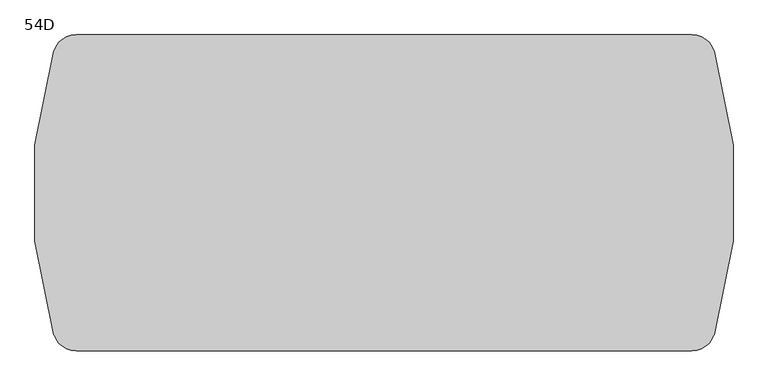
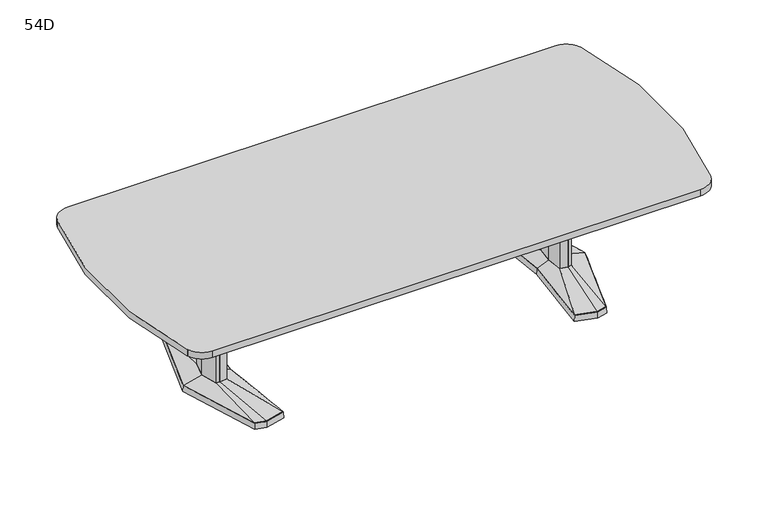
"""IFC4 building model written with IfcOpenShell, lengths in millimetres: furniture geometry, Coalesse_AM_Table_Conference_ETable2_SoftRadiused_10ft_AluminiumBase : 54D."""

from ifc_helpers import new_model, si_unit, frame, origin, place, context, project, spatial, polyline, circle_curve, outline, extrude, faceted_brep, source, transform, mapped, element, save
from ifc_brep_helpers import plane_surface, cylinder_surface, spline_surface, advanced_brep


def furniture_54d_84b97fea(model_context):
    return source(origin(), model_context, "Body", "SolidModel", [
        faceted_brep([(905.8306835, 455.5848221, 38.1), (796.2531277, 426.2263816, 38.1), (837.4163717, 0.0, 38.1), (796.2531277, -426.2263816, 38.1), (905.8306835, -455.5848221, 38.1), (961.9570396, -440.5478297, 38.1), (1099.2684269, 0.0, 38.1), (961.9570396, 440.5478297, 38.1), (905.8306754, 457.2283104, 3.175), (963.2124472, 441.8549756, 3.175), (1100.93125, 0.0, 3.175), (963.2124472, -441.8549756, 3.175), (905.8306754, -457.2283104, 3.175), (794.54375, -427.4118891, 3.175), (835.8214856, 0.0, 3.175), (794.54375, 427.4118891, 3.175), (909.420115, 428.3273875, 3.175), (804.3718228, 402.1057253, 3.175), (812.490518, 377.985069, 3.175), (913.0095466, 401.0699529, 3.175), (963.5691725, 387.524361, 3.175), (962.7631061, 414.0360954, 3.175), (909.420115, -428.3273875, 3.175), (962.7631061, -414.0360954, 3.175), (963.5691725, -387.524361, 3.175), (913.0095466, -401.0699529, 3.175), (812.490518, -377.985069, 3.175), (804.3718228, -402.1057253, 3.175), (1036.0153621, 0.0, 3.175), (1003.7459611, 120.4193755, 3.175), (955.0987222, 133.471665, 3.175), (875.2180526, 119.4176561, 3.175), (864.0868466, 0.0, 3.175), (875.2180526, -119.4176561, 3.175), (955.0987222, -133.471665, 3.175), (1003.7459611, -120.4193755, 3.175), (909.420115, 428.3273875, 0.0), (962.7631061, 414.0360954, 0.0), (963.5691725, 387.524361, 0.0), (913.0095466, 401.0699529, 0.0), (812.490518, 377.985069, 0.0), (804.3718228, 402.1057253, 0.0), (909.420115, -428.3273875, 0.0), (804.3718228, -402.1057253, 0.0), (812.490518, -377.985069, 0.0), (913.0095466, -401.0699529, 0.0), (963.5691725, -387.524361, 0.0), (962.7631061, -414.0360954, 0.0), (1036.0153621, 0.0, 0.0), (1003.7459611, -120.4193755, 0.0), (955.0987222, -133.471665, 0.0), (875.2180526, -119.4176561, 0.0), (864.0868466, 0.0, 0.0), (875.2180526, 119.4176561, 0.0), (955.0987222, 133.471665, 0.0), (1003.7459611, 120.4193755, 0.0)], [[[0, 1, 2, 3, 4, 5, 6, 7]], [[8, 9, 10, 11, 12, 13, 14, 15], [16, 17, 18, 19, 20, 21], [22, 23, 24, 25, 26, 27], [28, 29, 30, 31, 32, 33, 34, 35]], [[7, 9, 8, 0]], [[6, 10, 9, 7]], [[5, 11, 10, 6]], [[4, 12, 11, 5]], [[3, 13, 12, 4]], [[2, 14, 13, 3]], [[1, 15, 14, 2]], [[0, 8, 15, 1]], [[36, 37, 38, 39, 40, 41]], [[42, 43, 44, 45, 46, 47]], [[48, 49, 50, 51, 52, 53, 54, 55]], [[36, 16, 21, 37]], [[37, 21, 20, 38]], [[38, 20, 19, 39]], [[39, 19, 18, 40]], [[40, 18, 17, 41]], [[41, 17, 16, 36]], [[42, 22, 27, 43]], [[43, 27, 26, 44]], [[44, 26, 25, 45]], [[45, 25, 24, 46]], [[46, 24, 23, 47]], [[47, 23, 22, 42]], [[48, 28, 35, 49]], [[49, 35, 34, 50]], [[50, 34, 33, 51]], [[51, 33, 32, 52]], [[52, 32, 31, 53]], [[53, 31, 30, 54]], [[54, 30, 29, 55]], [[55, 29, 28, 48]]]),
        faceted_brep([(996.5710836, 0.0, 698.5), (972.6358546, 89.3188359, 698.5), (955.7824984, 93.8406728, 698.5), (953.3826511, 94.4845635, 698.5), (910.455146, 86.9320037, 698.5), (902.3520056, 0.0, 698.5), (910.455146, -86.9320037, 698.5), (953.3826511, -94.4845635, 698.5), (955.7824984, -93.8406728, 698.5), (972.6358546, -89.3188359, 698.5), (996.5710836, 0.0, 63.5), (972.6358546, -89.3188359, 63.5), (955.7824984, -93.8406728, 63.5), (953.3826511, -94.4845635, 63.5), (910.455146, -86.9320037, 63.5), (902.3520056, 0.0, 63.5), (910.455146, 86.9320037, 63.5), (953.3826511, 94.4845635, 63.5), (955.7824984, 93.8406728, 63.5), (972.6358546, 89.3188359, 63.5)], [[[0, 1, 2, 3, 4, 5, 6, 7, 8, 9]], [[10, 11, 12, 13, 14, 15, 16, 17, 18, 19]], [[9, 11, 10, 0]], [[8, 12, 11, 9]], [[7, 13, 12, 8]], [[6, 14, 13, 7]], [[5, 15, 14, 6]], [[4, 16, 15, 5]], [[3, 17, 16, 4]], [[2, 18, 17, 3]], [[1, 19, 18, 2]], [[0, 10, 19, 1]]]),
        advanced_brep(
        [(953.3826511, 94.4845635, 63.5), (910.455146, 86.9320037, 63.5), (902.3520056, 0.0, 63.5), (910.455146, -86.9320037, 63.5), (953.3826511, -94.4845635, 63.5), (972.6358546, -89.3188359, 63.5), (996.5710836, 0.0, 63.5), (972.6358546, 89.3188359, 63.5), (905.8306835, 455.5848221, 38.1), (961.9570396, 440.5478297, 38.1), (1099.2684269, 0.0, 38.1), (961.9570396, -440.5478297, 38.1), (905.8306835, -455.5848221, 38.1), (796.2531277, -426.2263816, 38.1), (837.4163717, 0.0, 38.1), (796.2531277, 426.2263816, 38.1)],
        [
            (0, 1),
            (1, 2),
            (2, 3),
            (3, 4),
            (4, 5),
            (5, 6),
            (6, 7),
            (7, 0),
            (8, 9),
            (9, 10),
            (10, 11),
            (11, 12),
            (12, 13),
            (13, 14),
            (14, 15),
            (15, 8),
            (8, 0),
            (7, 9),
            (6, 10),
            (5, 11),
            (4, 12),
            (3, 13),
            (2, 14),
            (1, 15),
        ],
        [
            plane_surface(frame((946.4837991, 0.0, 63.5), z_axis=(0.0, 0.0, 1.0), x_axis=(-0.25884244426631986, -0.9659195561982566, 0.0))),
            plane_surface(frame((908.0958125, 0.0, 38.1), z_axis=(0.0, 0.0, -1.0), x_axis=(-0.25884244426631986, -0.9659195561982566, 0.0))),
            spline_surface(1, 1, [[(905.8306835, 455.5848221, 38.1), (961.9570396, 440.5478297, 38.1)], [(953.3826511, 94.4845635, 63.5), (972.6358546, 89.3188359, 63.5)]], [2, 2], [2, 2], [0.0, 1.0], [0.0, 1.0]),
            spline_surface(1, 1, [[(961.9570396, 440.5478297, 38.1), (1099.2684269, 0.0, 38.1)], [(972.6358546, 89.3188359, 63.5), (996.5710836, 0.0, 63.5)]], [2, 2], [2, 2], [0.0, 1.0], [0.0, 1.0]),
            spline_surface(1, 1, [[(1099.2684269, 0.0, 38.1), (961.9570396, -440.5478297, 38.1)], [(996.5710836, 0.0, 63.5), (972.6358546, -89.3188359, 63.5)]], [2, 2], [2, 2], [0.0, 1.0], [0.0, 1.0]),
            spline_surface(1, 1, [[(961.9570396, -440.5478297, 38.1), (905.8306835, -455.5848221, 38.1)], [(972.6358546, -89.3188359, 63.5), (953.3826511, -94.4845635, 63.5)]], [2, 2], [2, 2], [0.0, 1.0], [0.0, 1.0]),
            spline_surface(1, 1, [[(905.8306835, -455.5848221, 38.1), (796.2531277, -426.2263816, 38.1)], [(953.3826511, -94.4845635, 63.5), (910.455146, -86.9320037, 63.5)]], [2, 2], [2, 2], [0.0, 1.0], [0.0, 1.0]),
            spline_surface(1, 1, [[(796.2531277, -426.2263816, 38.1), (837.4163717, 0.0, 38.1)], [(910.455146, -86.9320037, 63.5), (902.3520056, 0.0, 63.5)]], [2, 2], [2, 2], [0.0, 1.0], [0.0, 1.0]),
            spline_surface(1, 1, [[(837.4163717, 0.0, 38.1), (796.2531277, 426.2263816, 38.1)], [(902.3520056, 0.0, 63.5), (910.455146, 86.9320037, 63.5)]], [2, 2], [2, 2], [0.0, 1.0], [0.0, 1.0]),
            spline_surface(1, 1, [[(796.2531277, 426.2263816, 38.1), (905.8306835, 455.5848221, 38.1)], [(910.455146, 86.9320037, 63.5), (953.3826511, 94.4845635, 63.5)]], [2, 2], [2, 2], [0.0, 1.0], [0.0, 1.0]),
        ],
        [
            (0, [[1, 2, 3, 4, 5, 6, 7, 8]]),
            (1, [[9, 10, 11, 12, 13, 14, 15, 16]]),
            (2, [[17, -8, 18, -9]]),
            (3, [[-18, -7, 19, -10]]),
            (4, [[-19, -6, 20, -11]]),
            (5, [[-20, -5, 21, -12]]),
            (6, [[-21, -4, 22, -13]]),
            (7, [[-22, -3, 23, -14]]),
            (8, [[-23, -2, 24, -15]]),
            (9, [[-24, -1, -17, -16]]),
        ],
    ),
        faceted_brep([(-905.8306835, 455.5848221, 38.1), (-961.9570396, 440.5478297, 38.1), (-1099.2684269, 0.0, 38.1), (-961.9570396, -440.5478297, 38.1), (-905.8306835, -455.5848221, 38.1), (-796.2531277, -426.2263816, 38.1), (-837.4163717, 0.0, 38.1), (-796.2531277, 426.2263816, 38.1), (-905.8306754, 457.2283104, 3.175), (-794.54375, 427.4118891, 3.175), (-835.8214856, 0.0, 3.175), (-794.54375, -427.4118891, 3.175), (-905.8306754, -457.2283104, 3.175), (-963.2124472, -441.8549756, 3.175), (-1100.93125, 0.0, 3.175), (-963.2124472, 441.8549756, 3.175), (-909.420115, 428.3273875, 3.175), (-962.7631061, 414.0360954, 3.175), (-963.5691725, 387.524361, 3.175), (-913.0095466, 401.0699529, 3.175), (-812.490518, 377.985069, 3.175), (-804.3718228, 402.1057253, 3.175), (-909.420115, -428.3273875, 3.175), (-804.3718228, -402.1057253, 3.175), (-812.490518, -377.985069, 3.175), (-913.0095466, -401.0699529, 3.175), (-963.5691725, -387.524361, 3.175), (-962.7631061, -414.0360954, 3.175), (-1036.0153621, 0.0, 3.175), (-1003.7459611, -120.4193755, 3.175), (-955.0987222, -133.471665, 3.175), (-875.2180526, -119.4176561, 3.175), (-864.0868466, 0.0, 3.175), (-875.2180526, 119.4176561, 3.175), (-955.0987222, 133.471665, 3.175), (-1003.7459611, 120.4193755, 3.175), (-909.420115, 428.3273875, 0.0), (-804.3718228, 402.1057253, 0.0), (-812.490518, 377.985069, 0.0), (-913.0095466, 401.0699529, 0.0), (-963.5691725, 387.524361, 0.0), (-962.7631061, 414.0360954, 0.0), (-909.420115, -428.3273875, 0.0), (-962.7631061, -414.0360954, 0.0), (-963.5691725, -387.524361, 0.0), (-913.0095466, -401.0699529, 0.0), (-812.490518, -377.985069, 0.0), (-804.3718228, -402.1057253, 0.0), (-1036.0153621, 0.0, 0.0), (-1003.7459611, 120.4193755, 0.0), (-955.0987222, 133.471665, 0.0), (-875.2180526, 119.4176561, 0.0), (-864.0868466, 0.0, 0.0), (-875.2180526, -119.4176561, 0.0), (-955.0987222, -133.471665, 0.0), (-1003.7459611, -120.4193755, 0.0)], [[[0, 1, 2, 3, 4, 5, 6, 7]], [[8, 9, 10, 11, 12, 13, 14, 15], [16, 17, 18, 19, 20, 21], [22, 23, 24, 25, 26, 27], [28, 29, 30, 31, 32, 33, 34, 35]], [[1, 0, 8, 15]], [[2, 1, 15, 14]], [[3, 2, 14, 13]], [[4, 3, 13, 12]], [[5, 4, 12, 11]], [[6, 5, 11, 10]], [[7, 6, 10, 9]], [[0, 7, 9, 8]], [[36, 37, 38, 39, 40, 41]], [[42, 43, 44, 45, 46, 47]], [[48, 49, 50, 51, 52, 53, 54, 55]], [[36, 41, 17, 16]], [[41, 40, 18, 17]], [[40, 39, 19, 18]], [[39, 38, 20, 19]], [[38, 37, 21, 20]], [[37, 36, 16, 21]], [[42, 47, 23, 22]], [[47, 46, 24, 23]], [[46, 45, 25, 24]], [[45, 44, 26, 25]], [[44, 43, 27, 26]], [[43, 42, 22, 27]], [[48, 55, 29, 28]], [[55, 54, 30, 29]], [[54, 53, 31, 30]], [[53, 52, 32, 31]], [[52, 51, 33, 32]], [[51, 50, 34, 33]], [[50, 49, 35, 34]], [[49, 48, 28, 35]]]),
        faceted_brep([(-996.5710836, 0.0, 698.5), (-972.6358546, -89.3188359, 698.5), (-955.7824984, -93.8406728, 698.5), (-953.3826511, -94.4845635, 698.5), (-910.455146, -86.9320037, 698.5), (-902.3520056, 0.0, 698.5), (-910.455146, 86.9320037, 698.5), (-953.3826511, 94.4845635, 698.5), (-955.7824984, 93.8406728, 698.5), (-972.6358546, 89.3188359, 698.5), (-996.5710836, 0.0, 63.5), (-972.6358546, 89.3188359, 63.5), (-955.7824984, 93.8406728, 63.5), (-953.3826511, 94.4845635, 63.5), (-910.455146, 86.9320037, 63.5), (-902.3520056, 0.0, 63.5), (-910.455146, -86.9320037, 63.5), (-953.3826511, -94.4845635, 63.5), (-955.7824984, -93.8406728, 63.5), (-972.6358546, -89.3188359, 63.5)], [[[0, 1, 2, 3, 4, 5, 6, 7, 8, 9]], [[10, 11, 12, 13, 14, 15, 16, 17, 18, 19]], [[1, 0, 10, 19]], [[2, 1, 19, 18]], [[3, 2, 18, 17]], [[4, 3, 17, 16]], [[5, 4, 16, 15]], [[6, 5, 15, 14]], [[7, 6, 14, 13]], [[8, 7, 13, 12]], [[9, 8, 12, 11]], [[0, 9, 11, 10]]]),
        advanced_brep(
        [(-953.3826511, 94.4845635, 63.5), (-972.6358546, 89.3188359, 63.5), (-996.5710836, 0.0, 63.5), (-972.6358546, -89.3188359, 63.5), (-953.3826511, -94.4845635, 63.5), (-910.455146, -86.9320037, 63.5), (-902.3520056, 0.0, 63.5), (-910.455146, 86.9320037, 63.5), (-905.8306835, 455.5848221, 38.1), (-796.2531277, 426.2263816, 38.1), (-837.4163717, 0.0, 38.1), (-796.2531277, -426.2263816, 38.1), (-905.8306835, -455.5848221, 38.1), (-961.9570396, -440.5478297, 38.1), (-1099.2684269, 0.0, 38.1), (-961.9570396, 440.5478297, 38.1)],
        [
            (0, 1),
            (1, 2),
            (2, 3),
            (3, 4),
            (4, 5),
            (5, 6),
            (6, 7),
            (7, 0),
            (8, 9),
            (9, 10),
            (10, 11),
            (11, 12),
            (12, 13),
            (13, 14),
            (14, 15),
            (15, 8),
            (15, 1),
            (0, 8),
            (14, 2),
            (13, 3),
            (12, 4),
            (11, 5),
            (10, 6),
            (9, 7),
        ],
        [
            plane_surface(frame((-946.4837991, 0.0, 63.5), z_axis=(0.0, 0.0, 1.0), x_axis=(0.25884244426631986, -0.9659195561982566, 0.0))),
            plane_surface(frame((-908.0958125, 0.0, 38.1), z_axis=(0.0, 0.0, -1.0), x_axis=(0.25884244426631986, -0.9659195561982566, 0.0))),
            spline_surface(1, 1, [[(-905.8306835, 455.5848221, 38.1), (-953.3826511, 94.4845635, 63.5)], [(-961.9570396, 440.5478297, 38.1), (-972.6358546, 89.3188359, 63.5)]], [2, 2], [2, 2], [0.0, 1.0], [0.0, 1.0]),
            spline_surface(1, 1, [[(-961.9570396, 440.5478297, 38.1), (-972.6358546, 89.3188359, 63.5)], [(-1099.2684269, 0.0, 38.1), (-996.5710836, 0.0, 63.5)]], [2, 2], [2, 2], [0.0, 1.0], [0.0, 1.0]),
            spline_surface(1, 1, [[(-1099.2684269, 0.0, 38.1), (-996.5710836, 0.0, 63.5)], [(-961.9570396, -440.5478297, 38.1), (-972.6358546, -89.3188359, 63.5)]], [2, 2], [2, 2], [0.0, 1.0], [0.0, 1.0]),
            spline_surface(1, 1, [[(-961.9570396, -440.5478297, 38.1), (-972.6358546, -89.3188359, 63.5)], [(-905.8306835, -455.5848221, 38.1), (-953.3826511, -94.4845635, 63.5)]], [2, 2], [2, 2], [0.0, 1.0], [0.0, 1.0]),
            spline_surface(1, 1, [[(-905.8306835, -455.5848221, 38.1), (-953.3826511, -94.4845635, 63.5)], [(-796.2531277, -426.2263816, 38.1), (-910.455146, -86.9320037, 63.5)]], [2, 2], [2, 2], [0.0, 1.0], [0.0, 1.0]),
            spline_surface(1, 1, [[(-796.2531277, -426.2263816, 38.1), (-910.455146, -86.9320037, 63.5)], [(-837.4163717, 0.0, 38.1), (-902.3520056, 0.0, 63.5)]], [2, 2], [2, 2], [0.0, 1.0], [0.0, 1.0]),
            spline_surface(1, 1, [[(-837.4163717, 0.0, 38.1), (-902.3520056, 0.0, 63.5)], [(-796.2531277, 426.2263816, 38.1), (-910.455146, 86.9320037, 63.5)]], [2, 2], [2, 2], [0.0, 1.0], [0.0, 1.0]),
            spline_surface(1, 1, [[(-796.2531277, 426.2263816, 38.1), (-910.455146, 86.9320037, 63.5)], [(-905.8306835, 455.5848221, 38.1), (-953.3826511, 94.4845635, 63.5)]], [2, 2], [2, 2], [0.0, 1.0], [0.0, 1.0]),
        ],
        [
            (0, [[1, 2, 3, 4, 5, 6, 7, 8]]),
            (1, [[9, 10, 11, 12, 13, 14, 15, 16]]),
            (2, [[-16, 17, -1, 18]]),
            (3, [[-15, 19, -2, -17]]),
            (4, [[-14, 20, -3, -19]]),
            (5, [[-13, 21, -4, -20]]),
            (6, [[-12, 22, -5, -21]]),
            (7, [[-11, 23, -6, -22]]),
            (8, [[-10, 24, -7, -23]]),
            (9, [[-9, -18, -8, -24]]),
        ],
    ),
        extrude(outline(polyline([(96.8375, 698.5), (103.1875, 698.5), (103.1875, 476.25), (-103.1875, 476.25), (-103.1875, 698.5), (-96.8375, 698.5), (-96.8375, 482.6), (96.8375, 482.6), (96.8375, 698.5)])), frame((-902.49375, 0.0, 0.0), z_axis=(1.0, 0.0, 0.0), x_axis=(0.0, 1.0, 0.0)), (0.0, 0.0, 1.0), 1804.9875),
        advanced_brep(
        [(-1335.2420702, 685.8, 736.6), (-1431.0315996, 618.0662966, 736.6), (-1431.7818993, 615.9441026, 736.6), (-1431.7818993, -615.9441026, 736.6), (-1431.0315996, -618.0662966, 736.6), (-1335.2417376, -685.8, 736.6), (1335.2420702, -685.8, 736.6), (1431.0315996, -618.0662966, 736.6), (1431.7818993, -615.9441026, 736.6), (1431.7818993, 615.9441026, 736.6), (1431.0315996, 618.0662966, 736.6), (1335.2420702, 685.8, 736.6), (-1335.2420702, 685.8, 698.5), (1335.2420702, 685.8, 698.5), (1431.0315996, 618.0662966, 698.5), (1431.7818993, 615.9441026, 698.5), (1431.7818993, -615.9441026, 698.5), (1431.0315996, -618.0662966, 698.5), (1335.2420702, -685.8, 698.5), (-1335.2417376, -685.8, 698.5), (-1431.0312448, -618.0663594, 698.5), (-1431.7818993, -615.9441026, 698.5), (-1431.7818993, 615.9441026, 698.5), (-1431.0315996, 618.0662966, 698.5)],
        [
            (0, 1, circle_curve(frame((-1335.2420702, 584.2, 736.6), z_axis=(0.0, 0.0, 1.0), x_axis=(1.0, 0.0, 0.0)), 101.6)),
            (1, 2),
            (2, 3, circle_curve(frame((570.3458071, 0.0, 736.6), z_axis=(0.0, 0.0, 1.0), x_axis=(1.0, 0.0, 0.0)), 2094.7320807)),
            (3, 4),
            (4, 5, circle_curve(frame((-1335.2417376, -584.2, 736.6), z_axis=(0.0, 0.0, 1.0), x_axis=(1.0, 0.0, 0.0)), 101.6)),
            (5, 6),
            (6, 7, circle_curve(frame((1335.2420702, -584.2, 736.6), z_axis=(0.0, 0.0, 1.0), x_axis=(1.0, 0.0, 0.0)), 101.6)),
            (7, 8),
            (8, 9, circle_curve(frame((-570.3458071, 0.0, 736.6), z_axis=(0.0, 0.0, 1.0), x_axis=(1.0, 0.0, 0.0)), 2094.7320807)),
            (9, 10),
            (10, 11, circle_curve(frame((1335.2420702, 584.2, 736.6), z_axis=(0.0, 0.0, 1.0), x_axis=(1.0, 0.0, 0.0)), 101.6)),
            (11, 0),
            (12, 13),
            (13, 14, circle_curve(frame((1335.2420702, 584.2, 698.5), z_axis=(0.0, 0.0, -1.0), x_axis=(1.0, 0.0, 0.0)), 101.6)),
            (14, 15),
            (15, 16, circle_curve(frame((-570.3458071, 0.0, 698.5), z_axis=(0.0, 0.0, -1.0), x_axis=(1.0, 0.0, 0.0)), 2094.7320807)),
            (16, 17),
            (17, 18, circle_curve(frame((1335.2420702, -584.2, 698.5), z_axis=(0.0, 0.0, -1.0), x_axis=(1.0, 0.0, 0.0)), 101.6)),
            (18, 19),
            (19, 20, circle_curve(frame((-1335.2417376, -584.2, 698.5), z_axis=(0.0, 0.0, -1.0), x_axis=(1.0, 0.0, 0.0)), 101.6)),
            (20, 21),
            (21, 22, circle_curve(frame((570.3458071, 0.0, 698.5), z_axis=(0.0, 0.0, -1.0), x_axis=(1.0, 0.0, 0.0)), 2094.7320807)),
            (22, 23),
            (23, 12, circle_curve(frame((-1335.2420702, 584.2, 698.5), z_axis=(0.0, 0.0, -1.0), x_axis=(1.0, 0.0, 0.0)), 101.6)),
            (0, 12),
            (23, 1),
            (22, 2),
            (21, 3),
            (20, 4),
            (19, 5),
            (18, 6),
            (17, 7),
            (16, 8),
            (15, 9),
            (14, 10),
            (13, 11),
        ],
        [
            plane_surface(frame((-1233.6420702, 584.2, 736.6), z_axis=(0.0, 0.0, 1.0), x_axis=(0.0, 1.0, 0.0))),
            plane_surface(frame((-1233.6420702, 584.2, 698.5), z_axis=(0.0, 0.0, -1.0), x_axis=(0.0, -1.0, 0.0))),
            cylinder_surface(frame((-1335.2420702, 584.2, 698.5), z_axis=(0.0, 0.0, 1.0), x_axis=(1.0, 0.0, 0.0)), 101.6),
            plane_surface(frame((-1431.0315996, 618.0662966, 736.6), z_axis=(-0.9428103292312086, 0.33332969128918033, 0.0), x_axis=(0.0, 0.0, -1.0))),
            cylinder_surface(frame((570.3458071, 0.0, 698.5), z_axis=(0.0, 0.0, 1.0), x_axis=(1.0, 0.0, 0.0)), 2094.7320807),
            plane_surface(frame((-1431.7818993, -615.9441026, 736.6), z_axis=(-0.9428103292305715, -0.33332969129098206, 0.0), x_axis=(0.0, 0.0, -1.0))),
            cylinder_surface(frame((-1335.2417376, -584.2, 698.5), z_axis=(0.0, 0.0, 1.0), x_axis=(1.0, 0.0, 0.0)), 101.6),
            plane_surface(frame((-1335.2417376, -685.8, 736.6), z_axis=(0.0, -1.0, 0.0), x_axis=(0.0, 0.0, -1.0))),
            cylinder_surface(frame((1335.2420702, -584.2, 698.5), z_axis=(0.0, 0.0, 1.0), x_axis=(1.0, 0.0, 0.0)), 101.6),
            plane_surface(frame((1431.0315996, -618.0662966, 736.6), z_axis=(0.9428103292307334, -0.3333296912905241, 0.0), x_axis=(0.0, 0.0, -1.0))),
            cylinder_surface(frame((-570.3458071, 0.0, 698.5), z_axis=(0.0, 0.0, 1.0), x_axis=(1.0, 0.0, 0.0)), 2094.7320807),
            plane_surface(frame((1431.7818993, 615.9441026, 736.6), z_axis=(0.9428103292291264, 0.3333296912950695, 0.0), x_axis=(0.0, 0.0, -1.0))),
            cylinder_surface(frame((1335.2420702, 584.2, 698.5), z_axis=(0.0, 0.0, 1.0), x_axis=(1.0, 0.0, 0.0)), 101.6),
            plane_surface(frame((1335.2420702, 685.8, 736.6), z_axis=(0.0, 1.0, 0.0), x_axis=(0.0, 0.0, -1.0))),
        ],
        [
            (0, [[1, 2, 3, 4, 5, 6, 7, 8, 9, 10, 11, 12]]),
            (1, [[13, 14, 15, 16, 17, 18, 19, 20, 21, 22, 23, 24]]),
            (2, [[-1, 25, -24, 26]]),
            (3, [[-2, -26, -23, 27]]),
            (4, [[-3, -27, -22, 28]]),
            (5, [[-4, -28, -21, 29]]),
            (6, [[-5, -29, -20, 30]]),
            (7, [[-6, -30, -19, 31]]),
            (8, [[-7, -31, -18, 32]]),
            (9, [[-8, -32, -17, 33]]),
            (10, [[-9, -33, -16, 34]]),
            (11, [[-10, -34, -15, 35]]),
            (12, [[-11, -35, -14, 36]]),
            (13, [[-12, -36, -13, -25]]),
        ],
    ),
    ])


if __name__ == "__main__":
    model = new_model("IFC4")
    model_context = context("Model", 3, world=origin())
    ifc_project = project(units=[si_unit("LENGTHUNIT", "METRE", prefix="MILLI")], contexts=[model_context])
    site = spatial("IfcSite", under=ifc_project)
    building = spatial("IfcBuilding", under=site)
    placement = place(None, origin())
    furniture_54d_shape = furniture_54d_84b97fea(model_context)
    element("IfcFurniture", 1, ObjectType="Coalesse_AM_Table_Conference_ETable2_SoftRadiused_10ft_AluminiumBase : 54D", at=placement, inside=building, context=model_context, shape_type="MappedRepresentation", body=[
        mapped(furniture_54d_shape, transform((0.0, 0.0, 0.0), x_axis=(1.0, 0.0, 0.0), y_axis=(0.0, 1.0, 0.0), z_axis=(0.0, 0.0, 1.0))),
    ])
    save(model, "model.ifc")
